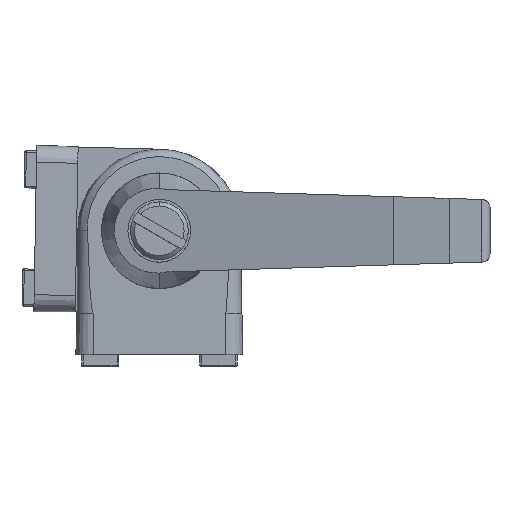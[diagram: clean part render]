
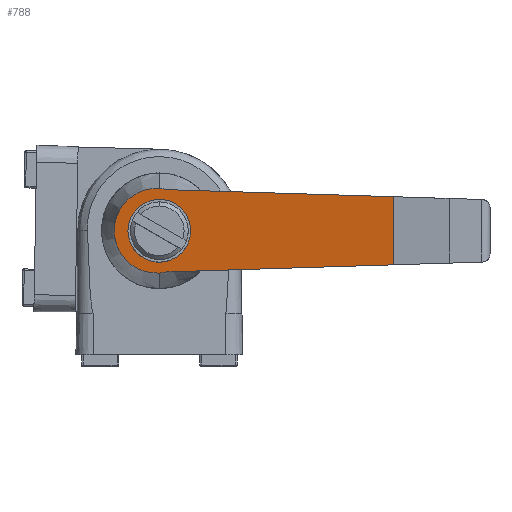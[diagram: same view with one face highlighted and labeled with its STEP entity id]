
A CAD part, front view. The second image highlights one B-rep face of the part: STEP entity #788.
In plain terms, the highlighted planar face has unit normal (-0.218, -0.976, 0) as drawn and (-0.218, 0.976, 0) by its records, which use the part's own axes.
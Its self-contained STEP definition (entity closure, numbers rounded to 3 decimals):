
#31 = CARTESIAN_POINT ( 'NONE',  ( 28.341, 13.542, -4.12 ) ) ;
#466 = CARTESIAN_POINT ( 'NONE',  ( 0.93, 7.432, 4.973 ) ) ;
#507 = LINE ( 'NONE', #11897, #9017 ) ;
#689 = EDGE_LOOP ( 'NONE', ( #6330, #14703 ) ) ;
#788 = ADVANCED_FACE ( 'NONE', ( #15285, #3083 ), #10367, .F. ) ;
#846 = CARTESIAN_POINT ( 'NONE',  ( 0.314, 7.295, -5.096 ) ) ;
#2378 = CARTESIAN_POINT ( 'NONE',  ( 7.6, 8.919, -3.8 ) ) ;
#2474 = VERTEX_POINT ( 'NONE', #10640 ) ;
#3060 = CARTESIAN_POINT ( 'NONE',  ( 0., 7.225, -5.115 ) ) ;
#3083 = FACE_BOUND ( 'NONE', #689, .T. ) ;
#4447 = CARTESIAN_POINT ( 'NONE',  ( 0., 7.225, -3.8 ) ) ;
#4719 = ORIENTED_EDGE ( 'NONE', *, *, #5557, .F. ) ;
#4732 = VECTOR ( 'NONE', #5012, 1000. ) ;
#4788 = EDGE_CURVE ( 'NONE', #14751, #14111, #11173, .T. ) ;
#4952 = VECTOR ( 'NONE', #13871, 1000. ) ;
#5012 = DIRECTION ( 'NONE',  ( -0.976, -0.217, -0.03 ) ) ;
#5037 = CARTESIAN_POINT ( 'NONE',  ( 0., 7.225, 3.8 ) ) ;
#5448 = CARTESIAN_POINT ( 'NONE',  ( 0.314, 7.295, 5.096 ) ) ;
#5557 = EDGE_CURVE ( 'NONE', #7869, #5671, #507, .T. ) ;
#5671 = VERTEX_POINT ( 'NONE', #14454 ) ;
#5757 = VERTEX_POINT ( 'NONE', #13479 ) ;
#5851 =( BOUNDED_CURVE ( )  B_SPLINE_CURVE ( 3, ( #6433, #12146, #2378, #12662 ),
 .UNSPECIFIED., .F., .F. ) 
 B_SPLINE_CURVE_WITH_KNOTS ( ( 4, 4 ),
 ( 1.571, 4.712 ),
 .UNSPECIFIED. ) 
 CURVE ( )  GEOMETRIC_REPRESENTATION_ITEM ( )  RATIONAL_B_SPLINE_CURVE ( ( 1., 0.333, 0.333, 1. ) ) 
 REPRESENTATION_ITEM ( '' )  );
#6330 = ORIENTED_EDGE ( 'NONE', *, *, #4788, .F. ) ;
#6433 = CARTESIAN_POINT ( 'NONE',  ( 0., 7.225, 3.8 ) ) ;
#6712 = CARTESIAN_POINT ( 'NONE',  ( 0., 7.225, -5.115 ) ) ;
#7215 = AXIS2_PLACEMENT_3D ( 'NONE', #15367, #13079, #14158 ) ;
#7612 =( BOUNDED_CURVE ( )  B_SPLINE_CURVE ( 3, ( #8112, #10229, #14095, #9246, #13024, #14182, #6712 ),
 .UNSPECIFIED., .F., .T. ) 
 B_SPLINE_CURVE_WITH_KNOTS ( ( 4, 3, 4 ),
 ( 4.653, 6.283, 7.914 ),
 .UNSPECIFIED. ) 
 CURVE ( )  GEOMETRIC_REPRESENTATION_ITEM ( )  RATIONAL_B_SPLINE_CURVE ( ( 1., 0.79, 0.79, 1., 0.79, 0.79, 1. ) ) 
 REPRESENTATION_ITEM ( '' )  );
#7635 = CARTESIAN_POINT ( 'NONE',  ( 0.93, 7.432, 4.973 ) ) ;
#7869 = VERTEX_POINT ( 'NONE', #11907 ) ;
#8076 = CARTESIAN_POINT ( 'NONE',  ( 0., 7.225, -3.8 ) ) ;
#8112 = CARTESIAN_POINT ( 'NONE',  ( 0., 7.225, 5.115 ) ) ;
#8946 = LINE ( 'NONE', #7635, #4952 ) ;
#9017 = VECTOR ( 'NONE', #14372, 1000. ) ;
#9058 = ORIENTED_EDGE ( 'NONE', *, *, #15198, .F. ) ;
#9199 = CARTESIAN_POINT ( 'NONE',  ( 0.625, 7.364, -5.049 ) ) ;
#9246 = CARTESIAN_POINT ( 'NONE',  ( -5.44, 6.013, 0. ) ) ;
#9447 = CARTESIAN_POINT ( 'NONE',  ( -7.6, 5.531, 3.8 ) ) ;
#9906 = CARTESIAN_POINT ( 'NONE',  ( 0., 7.225, 5.115 ) ) ;
#9971 = EDGE_CURVE ( 'NONE', #5757, #12683, #15466, .T. ) ;
#10229 = CARTESIAN_POINT ( 'NONE',  ( -3.146, 6.524, 5.303 ) ) ;
#10367 = PLANE ( 'NONE',  #7215 ) ;
#10464 = CARTESIAN_POINT ( 'NONE',  ( 0., 7.225, 5.115 ) ) ;
#10478 = ORIENTED_EDGE ( 'NONE', *, *, #13893, .F. ) ;
#10640 = CARTESIAN_POINT ( 'NONE',  ( 0.93, 7.432, -4.973 ) ) ;
#11173 =( BOUNDED_CURVE ( )  B_SPLINE_CURVE ( 3, ( #4447, #12966, #9447, #14458 ),
 .UNSPECIFIED., .F., .F. ) 
 B_SPLINE_CURVE_WITH_KNOTS ( ( 4, 4 ),
 ( 4.712, 7.854 ),
 .UNSPECIFIED. ) 
 CURVE ( )  GEOMETRIC_REPRESENTATION_ITEM ( )  RATIONAL_B_SPLINE_CURVE ( ( 1., 0.333, 0.333, 1. ) ) 
 REPRESENTATION_ITEM ( '' )  );
#11248 = LINE ( 'NONE', #31, #4732 ) ;
#11660 = CARTESIAN_POINT ( 'NONE',  ( 0., 7.225, -5.115 ) ) ;
#11704 = CARTESIAN_POINT ( 'NONE',  ( 0.625, 7.364, 5.049 ) ) ;
#11897 = CARTESIAN_POINT ( 'NONE',  ( 28.341, 13.542, 5.365 ) ) ;
#11907 = CARTESIAN_POINT ( 'NONE',  ( 28.341, 13.542, -4.12 ) ) ;
#12146 = CARTESIAN_POINT ( 'NONE',  ( 7.6, 8.919, 3.8 ) ) ;
#12662 = CARTESIAN_POINT ( 'NONE',  ( 0., 7.225, -3.8 ) ) ;
#12683 = VERTEX_POINT ( 'NONE', #9906 ) ;
#12966 = CARTESIAN_POINT ( 'NONE',  ( -7.6, 5.531, -3.8 ) ) ;
#13024 = CARTESIAN_POINT ( 'NONE',  ( -5.44, 6.013, -3.146 ) ) ;
#13053 = CARTESIAN_POINT ( 'NONE',  ( 0.93, 7.432, -4.973 ) ) ;
#13079 = DIRECTION ( 'NONE',  ( 0.218, -0.976, 0. ) ) ;
#13082 =( BOUNDED_CURVE ( )  B_SPLINE_CURVE ( 3, ( #3060, #846, #9199, #13053 ),
 .UNSPECIFIED., .F., .F. ) 
 B_SPLINE_CURVE_WITH_KNOTS ( ( 4, 4 ),
 ( 1.631, 1.814 ),
 .UNSPECIFIED. ) 
 CURVE ( )  GEOMETRIC_REPRESENTATION_ITEM ( )  RATIONAL_B_SPLINE_CURVE ( ( 1., 0.997, 0.997, 1. ) ) 
 REPRESENTATION_ITEM ( '' )  );
#13479 = CARTESIAN_POINT ( 'NONE',  ( 0.93, 7.432, 4.973 ) ) ;
#13871 = DIRECTION ( 'NONE',  ( 0.976, 0.217, -0.03 ) ) ;
#13893 = EDGE_CURVE ( 'NONE', #12683, #15046, #7612, .T. ) ;
#14095 = CARTESIAN_POINT ( 'NONE',  ( -5.44, 6.013, 3.146 ) ) ;
#14111 = VERTEX_POINT ( 'NONE', #5037 ) ;
#14158 = DIRECTION ( 'NONE',  ( 0.976, 0.218, 0. ) ) ;
#14182 = CARTESIAN_POINT ( 'NONE',  ( -3.146, 6.524, -5.303 ) ) ;
#14372 = DIRECTION ( 'NONE',  ( 0., 0., 1. ) ) ;
#14454 = CARTESIAN_POINT ( 'NONE',  ( 28.341, 13.542, 4.12 ) ) ;
#14458 = CARTESIAN_POINT ( 'NONE',  ( 0., 7.225, 3.8 ) ) ;
#14661 = ORIENTED_EDGE ( 'NONE', *, *, #15087, .T. ) ;
#14703 = ORIENTED_EDGE ( 'NONE', *, *, #15394, .F. ) ;
#14751 = VERTEX_POINT ( 'NONE', #8076 ) ;
#15046 = VERTEX_POINT ( 'NONE', #11660 ) ;
#15087 = EDGE_CURVE ( 'NONE', #5757, #5671, #8946, .T. ) ;
#15198 = EDGE_CURVE ( 'NONE', #15046, #2474, #13082, .T. ) ;
#15285 = FACE_OUTER_BOUND ( 'NONE', #15680, .T. ) ;
#15367 = CARTESIAN_POINT ( 'NONE',  ( 28.341, 13.542, 5.365 ) ) ;
#15394 = EDGE_CURVE ( 'NONE', #14111, #14751, #5851, .T. ) ;
#15466 =( BOUNDED_CURVE ( )  B_SPLINE_CURVE ( 3, ( #466, #11704, #5448, #10464 ),
 .UNSPECIFIED., .F., .F. ) 
 B_SPLINE_CURVE_WITH_KNOTS ( ( 4, 4 ),
 ( 4.469, 4.653 ),
 .UNSPECIFIED. ) 
 CURVE ( )  GEOMETRIC_REPRESENTATION_ITEM ( )  RATIONAL_B_SPLINE_CURVE ( ( 1., 0.997, 0.997, 1. ) ) 
 REPRESENTATION_ITEM ( '' )  );
#15680 = EDGE_LOOP ( 'NONE', ( #16165, #14661, #4719, #15903, #9058, #10478 ) ) ;
#15903 = ORIENTED_EDGE ( 'NONE', *, *, #16128, .T. ) ;
#16128 = EDGE_CURVE ( 'NONE', #7869, #2474, #11248, .T. ) ;
#16165 = ORIENTED_EDGE ( 'NONE', *, *, #9971, .F. ) ;
